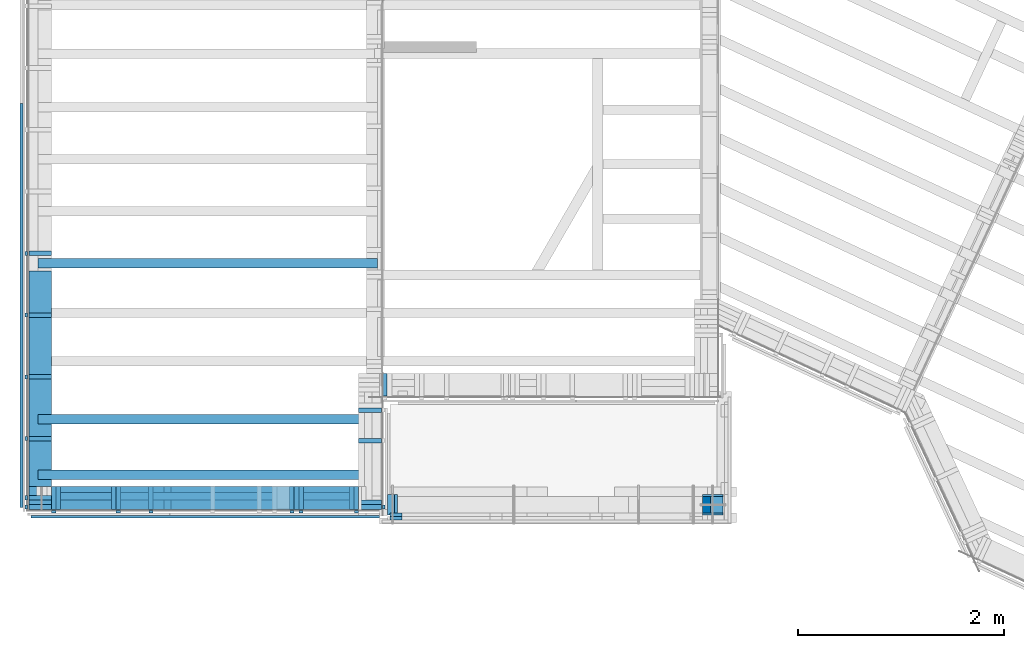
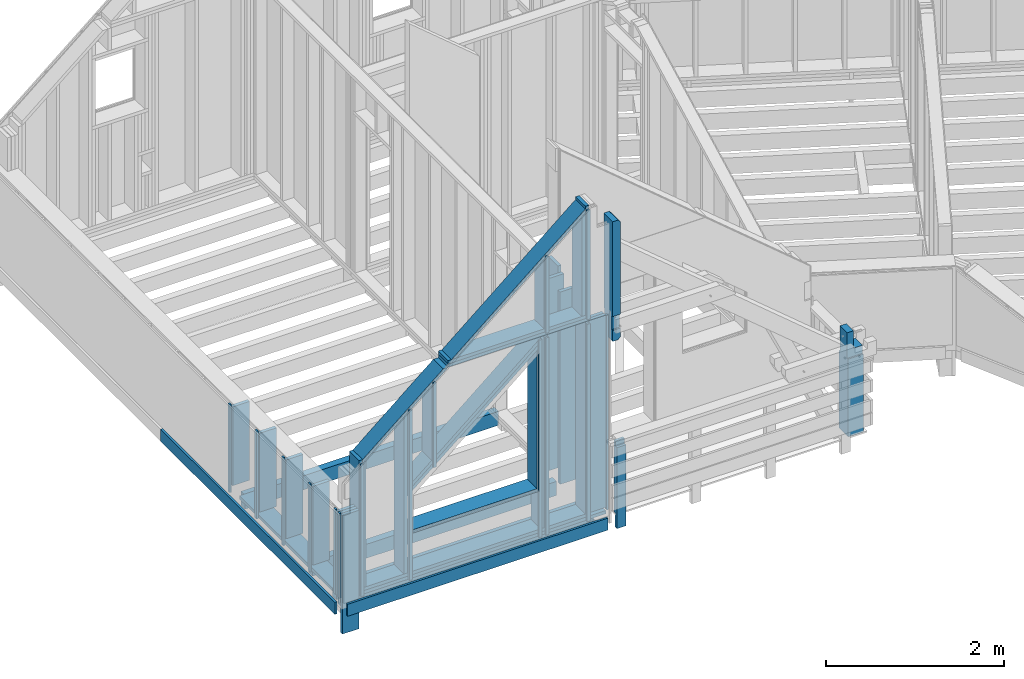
# One storey, part 3 of 24: 57 members, 1 beam, 1 column.
"""IFC2X3 building model written with IfcOpenShell, lengths in metres."""

import ifcopenshell
import ifcopenshell.guid

model = None  # the IFC model being written
_history = None  # IfcOwnerHistory: only IFC2X3 demands one
_inside = {}  # id of a spatial element -> (the spatial element, [elements in it])
_under = {}  # id of a project, library or spatial element -> (it, [spatial elements below it])
_declared = {}  # id of a project -> (the project, [libraries it declares])
_typed = {}  # id of a type object -> (the type object, [elements of that type])
_made_of = {}  # id of a material, layer set ... -> (it, [elements and type objects made of it])


def new_model(schema):
    """Start an empty IFC model of exactly this schema.

    Asked for "IFC4X3", IfcOpenShell would pick the latest addendum, in which some entities
    have other attributes; the version numbers below select the first issue.
    IFC2X3 requires an IfcOwnerHistory on every rooted entity: one is made here for all.
    """
    global model, _history
    if schema == "IFC4X3":
        model = ifcopenshell.file(schema_version=(4, 3, 0, 0))
    else:
        model = ifcopenshell.file(schema=schema)
    _inside.clear()
    _under.clear()
    _declared.clear()
    _typed.clear()
    _made_of.clear()
    _history = None
    if model.schema == "IFC2X3":
        org = make("IfcOrganization", Name="unknown")
        user = make(
            "IfcPersonAndOrganization",
            ThePerson=make("IfcPerson", FamilyName="unknown"),
            TheOrganization=org,
        )
        app = make(
            "IfcApplication",
            ApplicationDeveloper=org,
            Version="unknown",
            ApplicationFullName="unknown",
            ApplicationIdentifier="unknown",
        )
        _history = make(
            "IfcOwnerHistory",
            OwningUser=user,
            OwningApplication=app,
            ChangeAction="ADDED",
            CreationDate=0,
        )
    return model


def make(cls, **values):
    """One entity of the class cls with the attributes given. An attribute that is None is left unset."""
    return model.create_entity(
        cls, **{name: value for name, value in values.items() if value is not None}
    )


def rooted(cls, **values):
    """An entity with a GlobalId (a new one), such as an element, a storey or a relation."""
    return make(cls, GlobalId=ifcopenshell.guid.new(), OwnerHistory=_history, **values)


def si_unit(unit_type, name, prefix=None):
    """IfcSIUnit, for example si_unit("LENGTHUNIT", "METRE", prefix="MILLI")."""
    return make("IfcSIUnit", UnitType=unit_type, Prefix=prefix, Name=name)


def assignment(units):
    """IfcUnitAssignment: the units of a project."""
    return None if units is None else make("IfcUnitAssignment", Units=units)


def point(xyz):
    """IfcCartesianPoint."""
    return None if xyz is None else make("IfcCartesianPoint", Coordinates=xyz)


def direction(xyz):
    """IfcDirection."""
    return None if xyz is None else make("IfcDirection", DirectionRatios=xyz)


def frame(location, z_axis=None, x_axis=None):
    """IfcAxis2Placement3D, a coordinate frame: its origin and axes. An axis left out is left unset."""
    return make(
        "IfcAxis2Placement3D",
        Location=point(location),
        Axis=direction(z_axis),
        RefDirection=direction(x_axis),
    )


def origin_with_axes():
    """The frame at (0, 0, 0) with the z axis (0, 0, 1) and the x axis (1, 0, 0) written out."""
    return frame((0.0, 0.0, 0.0), z_axis=(0.0, 0.0, 1.0), x_axis=(1.0, 0.0, 0.0))


def place(relative_to, where):
    """IfcLocalPlacement: puts the frame where relative to a parent placement (None: the world)."""
    return make(
        "IfcLocalPlacement", PlacementRelTo=relative_to, RelativePlacement=where
    )


def context(
    kind, dimensions, precision=None, world=None, true_north=None, identifier=None
):
    """IfcGeometricRepresentationContext, for example the 3D "Model" context."""
    return make(
        "IfcGeometricRepresentationContext",
        ContextIdentifier=identifier,
        ContextType=kind,
        CoordinateSpaceDimension=dimensions,
        Precision=precision,
        WorldCoordinateSystem=world,
        TrueNorth=true_north,
    )


def subcontext(parent, identifier, kind, view, scale=None):
    """IfcGeometricRepresentationSubContext, for example "Body" below "Model"."""
    return make(
        "IfcGeometricRepresentationSubContext",
        ContextIdentifier=identifier,
        ContextType=kind,
        ParentContext=parent,
        TargetScale=scale,
        TargetView=view,
    )


def project(units=None, contexts=None):
    """IfcProject with its units and contexts."""
    return rooted(
        "IfcProject",
        Name="project",
        RepresentationContexts=contexts,
        UnitsInContext=assignment(units),
    )


def spatial(cls, under=None, at=None, **own):
    """A site, building, storey or space (cls), placed at a placement, below another one or the project."""
    s = rooted(cls, ObjectPlacement=at, **own)
    if under is not None:
        _under.setdefault(under.id(), (under, []))[1].append(s)
    return s


def faces_of(points, faces, orient=None, outer=None):
    """IfcFace entities. A face is a list of loops; a loop is a list of indices into points, from 0.

    orient and outer hold one flag for each loop. By default every Orientation is true, the
    first loop of a face is its IfcFaceOuterBound and the others are IfcFaceBound.
    """
    made = []
    for i, loops in enumerate(faces):
        bounds = []
        for j, loop in enumerate(loops):
            is_outer = j == 0 if outer is None else outer[i][j]
            bounds.append(
                make(
                    "IfcFaceOuterBound" if is_outer else "IfcFaceBound",
                    Bound=make("IfcPolyLoop", Polygon=[points[k] for k in loop]),
                    Orientation=True if orient is None else orient[i][j],
                )
            )
        made.append(make("IfcFace", Bounds=bounds))
    return made


def faceted_brep(points, faces, orient=None, outer=None, voids=None):
    """IfcFacetedBrep: a solid bounded by flat faces; with voids (closed shells), ...WithVoids."""
    shared = [point(p) for p in points]
    hull = make("IfcClosedShell", CfsFaces=faces_of(shared, faces, orient, outer))
    if voids is None:
        return make("IfcFacetedBrep", Outer=hull)
    return make(
        "IfcFacetedBrepWithVoids",
        Outer=hull,
        Voids=[
            make(cls, CfsFaces=faces_of(shared, fs, o, b)) for cls, fs, o, b in voids
        ],
    )


def shape(context_of_items, identifier, shape_type, items):
    """IfcShapeRepresentation: the items that make up one representation, for example the "Body"."""
    return make(
        "IfcShapeRepresentation",
        ContextOfItems=context_of_items,
        RepresentationIdentifier=identifier,
        RepresentationType=shape_type,
        Items=items,
    )


def material(Name=None, Category=None):
    """IfcMaterial."""
    return make("IfcMaterial", Name=Name, Category=Category)


def made_of(thing, what):
    """Note that an element or type object is made of a material, layer set ...; save() writes the relation."""
    if what is not None:
        _made_of.setdefault(what.id(), (what, []))[1].append(thing)
    return thing


def element(
    cls,
    number,
    at=None,
    inside=None,
    cuts=None,
    type_object=None,
    material=None,
    context=None,
    identifier="Body",
    shape_type=None,
    held_by="IfcProductDefinitionShape",
    body=None,
    shapes=None,
    **own,
):
    """One element of the class cls, such as IfcWall. Its Tag is "e" and its number.

    at: its placement. inside: the storey or other place that contains it. cuts: it is an
    opening in that element (IfcRelVoidsElement). A single representation is given by context,
    identifier, shape_type and body (its items); several are given by shapes. held_by: the class
    of the entity that holds the representations. save() writes the other relations.
    """
    e = rooted(cls, Tag="e%d" % number, ObjectPlacement=at, **own)
    if body is not None:
        shapes = [shape(context, identifier, shape_type, body)]
    if shapes is not None:
        e.Representation = make(held_by, Representations=shapes)
    if inside is not None:
        _inside.setdefault(inside.id(), (inside, []))[1].append(e)
    if cuts is not None:
        rooted(
            "IfcRelVoidsElement", RelatingBuildingElement=cuts, RelatedOpeningElement=e
        )
    if type_object is not None:
        _typed.setdefault(type_object.id(), (type_object, []))[1].append(e)
    return made_of(e, material)


def aggregate(whole, parts):
    """IfcRelAggregates: a whole, such as a stair, and the parts it consists of."""
    return rooted("IfcRelAggregates", RelatingObject=whole, RelatedObjects=parts)


def save(model, path):
    """Write the relations noted so far, then the file.

    IfcRelAggregates (storeys below a building ...), IfcRelContainedInSpatialStructure (elements
    in a storey), IfcRelDefinesByType, IfcRelAssociatesMaterial and IfcRelDeclares: one each for
    every whole, place, type object, material and project.
    """
    for whole, parts in _under.values():
        aggregate(whole, parts)
    for where, things in _inside.values():
        rooted(
            "IfcRelContainedInSpatialStructure",
            RelatedElements=things,
            RelatingStructure=where,
        )
    for kind, things in _typed.values():
        rooted("IfcRelDefinesByType", RelatedObjects=things, RelatingType=kind)
    for what, things in _made_of.values():
        rooted("IfcRelAssociatesMaterial", RelatedObjects=things, RelatingMaterial=what)
    for by, libraries in _declared.values():
        rooted("IfcRelDeclares", RelatingContext=by, RelatedDefinitions=libraries)
    model.write(path)


model = new_model("IFC2X3")

# Units and contexts
model_context = context("Model", 3, precision=1e-06, world=origin_with_axes(), true_north=direction((0.0, 1.0, 0.0)))
body_context = subcontext(model_context, "Body", "Model", "MODEL_VIEW")
ifc_project = project(units=[si_unit("LENGTHUNIT", "METRE"), si_unit("AREAUNIT", "SQUARE_METRE"), si_unit("VOLUMEUNIT", "CUBIC_METRE"), si_unit("PLANEANGLEUNIT", "RADIAN")], contexts=[model_context])

# Site, building, storey
site_placement = place(None, origin_with_axes())
site = spatial("IfcSite", under=ifc_project, at=site_placement, CompositionType="ELEMENT")
building_placement = place(site_placement, origin_with_axes())
building = spatial("IfcBuilding", under=site, at=building_placement, Name="Building 1", CompositionType="ELEMENT")
storey_placement = place(building_placement, origin_with_axes())
storey = spatial("IfcBuildingStorey", under=building, at=storey_placement, Name="Premier Etage", CompositionType="ELEMENT", Elevation=0.0)

# Column
ifc_material_1 = material(Name="NH II")
column_placement = place(storey_placement, frame((6.652, 0.056, 2.805), z_axis=(-1.0, 0.0, 0.0), x_axis=(0.0, 0.0, 1.0)))
element("IfcColumn", 1, at=column_placement, inside=storey, material=ifc_material_1, Name="Poteau", context=body_context, shape_type="Brep", body=[
    faceted_brep([(1.1778151, 0.08, 0.019), (1.4178151, 0.08, 0.019), (1.4178151, -0.08, 0.019), (1.1778151, -0.08, 0.019), (1.4178151, 0.08, 0.1), (1.4178151, -0.08, 0.1), (1.067, 0.1, 0.1), (1.067, 0.1, -0.1), (0.0, 0.1, -0.1), (0.0, 0.1, 0.1), (1.067, 0.08, 0.1), (1.1778151, 0.08, -0.1), (1.067, 0.08, -0.1), (1.067, -0.1, -0.1), (1.067, -0.1, 0.1), (0.0, -0.1, 0.1), (0.0, -0.1, -0.1), (1.067, -0.08, 0.1), (1.067, -0.08, -0.1), (1.1778151, -0.08, -0.1)], [[[0, 1, 2, 3]], [[1, 4, 5, 2]], [[6, 7, 8, 9]], [[10, 4, 1, 0, 11, 12]], [[13, 14, 15, 16]], [[4, 10, 6, 9, 15, 14, 17, 5]], [[18, 19, 3, 2, 5, 17]], [[13, 18, 17, 14]], [[11, 19, 18, 13, 16, 8, 7, 12]], [[11, 0, 3, 19]], [[8, 16, 15, 9]], [[6, 10, 12, 7]]]),
])

# Members
ifc_material_2 = material(Name="Epicéa C24")
member_1_placement = place(storey_placement, frame((3.326, 0.6795, 5.5354713), z_axis=(1.0, 0.0, 0.0), x_axis=(0.0, 0.0, -1.0)))
element("IfcMember", 2, at=member_1_placement, inside=storey, material=ifc_material_2, Name="Montant", context=body_context, shape_type="Brep", body=[
    faceted_brep([(2.6404713, -0.0225, -0.11), (2.6404713, 0.0225, -0.11), (2.6404713, 0.0225, 0.11), (2.6404713, -0.0225, 0.11), (0.0, -0.0225, 0.11), (0.0, -0.0225, -0.11), (0.0, 0.0225, -0.11), (0.0, 0.0225, 0.11)], [[[0, 1, 2, 3]], [[0, 3, 4, 5]], [[1, 0, 5, 6]], [[2, 1, 6, 7]], [[3, 2, 7, 4]], [[4, 7, 6, 5]]]),
])
member_2_placement = place(storey_placement, frame((2.6565, -0.013, 6.6359814), z_axis=(0.0, -1.0, 0.0), x_axis=(0.0, 0.0, -1.0)))
element("IfcMember", 3, at=member_2_placement, inside=storey, material=ifc_material_2, Name="latte 27/40", context=body_context, shape_type="Brep", body=[
    faceted_brep([(1.0505101, 0.02, -0.012), (1.0505101, 0.02, 0.012), (1.0505101, -0.02, 0.012), (1.0505101, -0.02, -0.012), (0.0, 0.02, 0.012), (0.0, 0.02, -0.012), (0.0, -0.02, -0.012), (0.0, -0.02, 0.012)], [[[0, 1, 2, 3]], [[4, 5, 6, 7]], [[3, 6, 5, 0]], [[2, 7, 6, 3]], [[1, 4, 7, 2]], [[0, 5, 4, 1]]]),
])
member_3_placement = place(storey_placement, frame((2.6565, 0.122, 6.6128998), z_axis=(0.0, -1.0, 0.0), x_axis=(0.0, 0.0, -1.0)))
element("IfcMember", 4, at=member_3_placement, inside=storey, material=ifc_material_2, Name="Montant", context=body_context, shape_type="Brep", body=[
    faceted_brep([(0.0, 0.0225, -0.11), (0.0377595, -0.0225, -0.11), (0.0377595, -0.0225, 0.11), (0.0, 0.0225, 0.11), (0.9874285, -0.0225, -0.11), (0.9874285, -0.0225, 0.11), (0.9874285, 0.0225, -0.11), (0.9874285, 0.0225, 0.11)], [[[0, 1, 2, 3]], [[2, 1, 4, 5]], [[1, 0, 6, 4]], [[0, 3, 7, 6]], [[3, 2, 5, 7]], [[4, 6, 7, 5]]]),
])
member_4_placement = place(storey_placement, frame((3.1485, 0.122, 7.0257368), z_axis=(0.0, -1.0, 0.0), x_axis=(0.0, 0.0, -1.0)))
element("IfcMember", 5, at=member_4_placement, inside=storey, material=ifc_material_2, Name="Montant", context=body_context, shape_type="Brep", body=[
    faceted_brep([(0.0377595, -0.0225, -0.11), (0.0377595, -0.0225, 0.11), (0.0, 0.0225, 0.11), (0.0, 0.0225, -0.11), (1.4002655, -0.0225, 0.11), (1.4002655, 0.0225, 0.11), (1.4002655, -0.0225, -0.11), (1.4002655, 0.0225, -0.11)], [[[0, 1, 2, 3]], [[2, 1, 4, 5]], [[1, 0, 6, 4]], [[3, 2, 5, 7]], [[0, 3, 7, 6]], [[6, 7, 5, 4]]]),
])
member_5_placement = place(storey_placement, frame((3.1854627, 0.122, 7.0672441), z_axis=(0.0, 1.0, 0.0), x_axis=(-0.7660444, 0.0, -0.6427876)))
element("IfcMember", 6, at=member_5_placement, inside=storey, material=ifc_material_2, Name="Montant", context=body_context, shape_type="Brep", body=[
    faceted_brep([(0.0, 0.0225, -0.11), (0.0377595, -0.0225, -0.11), (0.0377595, -0.0225, 0.11), (0.0, 0.0225, 0.11), (2.2161859, -0.0225, -0.11), (2.2161859, -0.0225, 0.11), (2.2698148, 0.0225, -0.11), (2.2698148, 0.0225, 0.11)], [[[0, 1, 2, 3]], [[2, 1, 4, 5]], [[1, 0, 6, 4]], [[3, 2, 5, 7]], [[0, 3, 7, 6]], [[6, 7, 5, 4]]]),
])
member_6_placement = place(storey_placement, frame((0.122, 2.326, 2.8275), z_axis=(1.0, 0.0, 0.0), x_axis=(0.0, -1.0, 0.0)))
element("IfcMember", 7, at=member_6_placement, inside=storey, material=ifc_material_2, Name="Lisse basse", context=body_context, shape_type="Brep", body=[
    faceted_brep([(0.0, -0.0225, 0.11), (0.0, 0.0225, 0.11), (0.0, 0.0225, -0.11), (0.0, -0.0225, -0.11), (2.094, 0.0225, 0.11), (2.094, 0.0225, -0.11), (2.094, -0.0225, 0.11), (2.094, -0.0225, -0.11)], [[[0, 1, 2, 3]], [[2, 1, 4, 5]], [[1, 0, 6, 4]], [[6, 7, 5, 4]], [[3, 2, 5, 7]], [[0, 3, 7, 6]]]),
])
member_7_placement = place(storey_placement, frame((3.326, 0.9758281, 5.5354713), z_axis=(-1.0, 0.0, 0.0), x_axis=(0.0, 0.0, -1.0)))
element("IfcMember", 8, at=member_7_placement, inside=storey, material=ifc_material_2, Name="Montant", context=body_context, shape_type="Brep", body=[
    faceted_brep([(2.6404713, -0.0225, -0.11), (2.6404713, 0.0225, -0.11), (2.6404713, 0.0225, 0.11), (2.6404713, -0.0225, 0.11), (0.0, -0.0225, 0.11), (0.0, -0.0225, -0.11), (0.0, 0.0225, -0.11), (0.0, 0.0225, 0.11)], [[[0, 1, 2, 3]], [[0, 3, 4, 5]], [[1, 0, 5, 6]], [[2, 1, 6, 7]], [[3, 2, 7, 4]], [[4, 7, 6, 5]]]),
])
member_8_placement = place(storey_placement, frame((-0.013, 0.0345, 4.0178151), z_axis=(-1.0, 0.0, 0.0), x_axis=(0.0, 0.0, -1.0)))
element("IfcMember", 9, at=member_8_placement, inside=storey, material=ifc_material_2, Name="latte 27/40", context=body_context, shape_type="Brep", body=[
    faceted_brep([(1.1678151, -0.02, -0.012), (1.1678151, -0.02, 0.012), (0.0, -0.02, 0.012), (0.0, -0.02, -0.012), (1.1678151, 0.02, -0.012), (0.0, 0.02, -0.012), (1.1678151, 0.02, 0.012), (0.0, 0.02, 0.012)], [[[0, 1, 2, 3]], [[4, 0, 3, 5]], [[6, 4, 5, 7]], [[2, 7, 5, 3]], [[1, 6, 7, 2]], [[4, 6, 1, 0]]]),
])
member_9_placement = place(storey_placement, frame((0.2625373, 0.122, 4.6146185), z_axis=(0.0, 1.0, 0.0), x_axis=(0.7660444, 0.0, 0.6427876)))
element("IfcMember", 10, at=member_9_placement, inside=storey, material=ifc_material_2, Name="Montant", context=body_context, shape_type="Brep", body=[
    faceted_brep([(0.0, 0.0225, -0.11), (0.0377595, -0.0225, -0.11), (0.0377595, -0.0225, 0.11), (0.0, 0.0225, 0.11), (1.4057782, -0.0225, -0.11), (1.4057782, -0.0225, 0.11), (1.4594071, 0.0225, -0.11), (1.4594071, 0.0225, 0.11)], [[[0, 1, 2, 3]], [[2, 1, 4, 5]], [[1, 0, 6, 4]], [[0, 3, 7, 6]], [[7, 5, 4, 6]], [[3, 2, 5, 7]]]),
])
member_10_placement = place(storey_placement, frame((3.1935, -0.013, 7.0865779), z_axis=(0.0, -1.0, 0.0), x_axis=(0.0, 0.0, -1.0)))
element("IfcMember", 11, at=member_10_placement, inside=storey, material=ifc_material_2, Name="latte 27/40", context=body_context, shape_type="Brep", body=[
    faceted_brep([(1.5011066, 0.02, -0.012), (1.5011066, 0.02, 0.012), (1.5011066, -0.02, 0.012), (1.5011066, -0.02, -0.012), (0.0, 0.02, 0.012), (0.0, 0.02, -0.012), (0.0, -0.02, -0.012), (0.0, -0.02, 0.012)], [[[0, 1, 2, 3]], [[4, 5, 6, 7]], [[3, 6, 5, 0]], [[2, 7, 6, 3]], [[1, 4, 7, 2]], [[0, 5, 4, 1]]]),
])
member_11_placement = place(storey_placement, frame((3.4705, 1.2228281, 5.5354713), z_axis=(0.0, 1.0, 0.0), x_axis=(0.0, 0.0, -1.0)))
element("IfcMember", 12, at=member_11_placement, inside=storey, material=ifc_material_2, Name="Montant", context=body_context, shape_type="Brep", body=[
    faceted_brep([(2.6404713, -0.0225, 0.11), (2.6404713, 0.0225, 0.11), (0.0, 0.0225, 0.11), (0.0, -0.0225, 0.11), (2.6404713, -0.0225, -0.11), (2.6404713, 0.0225, -0.11), (0.0, -0.0225, -0.11), (0.0, 0.0225, -0.11)], [[[0, 1, 2, 3]], [[4, 5, 1, 0]], [[4, 0, 3, 6]], [[5, 4, 6, 7]], [[1, 5, 7, 2]], [[3, 2, 7, 6]]]),
])
member_12_placement = place(storey_placement, frame((0.8365, 0.122, 5.0857384), z_axis=(0.0, -1.0, 0.0), x_axis=(0.0, 0.0, -1.0)))
element("IfcMember", 13, at=member_12_placement, inside=storey, material=ifc_material_2, Name="Montant", context=body_context, shape_type="Brep", body=[
    faceted_brep([(0.0377595, -0.0225, -0.11), (0.0377595, -0.0225, 0.11), (0.0, 0.0225, 0.11), (0.0, 0.0225, -0.11), (2.1907384, -0.0225, 0.11), (2.1907384, 0.0225, 0.11), (2.1907384, -0.0225, -0.11), (2.1907384, 0.0225, -0.11)], [[[0, 1, 2, 3]], [[2, 1, 4, 5]], [[1, 0, 6, 4]], [[6, 7, 5, 4]], [[0, 3, 7, 6]], [[3, 2, 5, 7]]]),
])
member_13_placement = place(storey_placement, frame((0.8815, -0.013, 5.1465795), z_axis=(0.0, -1.0, 0.0), x_axis=(0.0, 0.0, -1.0)))
element("IfcMember", 14, at=member_13_placement, inside=storey, material=ifc_material_2, Name="latte 27/40", context=body_context, shape_type="Brep", body=[
    faceted_brep([(2.3365795, 0.02, -0.012), (2.3365795, 0.02, 0.012), (2.3365795, -0.02, 0.012), (2.3365795, -0.02, -0.012), (0.0, 0.02, 0.012), (0.0, 0.02, -0.012), (0.0, -0.02, -0.012), (0.0, -0.02, 0.012)], [[[0, 1, 2, 3]], [[4, 5, 6, 7]], [[3, 6, 5, 0]], [[2, 7, 6, 3]], [[1, 4, 7, 2]], [[0, 5, 4, 1]]]),
])
member_14_placement = place(storey_placement, frame((2.6115, 0.122, 5.5354713), z_axis=(0.0, -1.0, 0.0), x_axis=(0.0, 0.0, -1.0)))
element("IfcMember", 15, at=member_14_placement, inside=storey, material=ifc_material_2, Name="Montant", context=body_context, shape_type="Brep", body=[
    faceted_brep([(2.6404713, -0.0225, -0.11), (2.6404713, 0.0225, -0.11), (2.6404713, 0.0225, 0.11), (2.6404713, -0.0225, 0.11), (0.0, -0.0225, 0.11), (0.0, -0.0225, -0.11), (0.0, 0.0225, -0.11), (0.0, 0.0225, 0.11)], [[[0, 1, 2, 3]], [[0, 3, 4, 5]], [[1, 0, 5, 6]], [[2, 1, 6, 7]], [[3, 2, 7, 4]], [[4, 7, 6, 5]]]),
])
member_15_placement = place(storey_placement, frame((0.2545, -0.013, 4.6204641), z_axis=(0.0, -1.0, 0.0), x_axis=(0.0, 0.0, -1.0)))
element("IfcMember", 16, at=member_15_placement, inside=storey, material=ifc_material_2, Name="latte 27/40", context=body_context, shape_type="Brep", body=[
    faceted_brep([(1.8104641, 0.02, -0.012), (1.8104641, 0.02, 0.012), (1.8104641, -0.02, 0.012), (1.8104641, -0.02, -0.012), (0.0, 0.02, 0.012), (0.0, 0.02, -0.012), (0.0, -0.02, -0.012), (0.0, -0.02, 0.012)], [[[0, 1, 2, 3]], [[4, 5, 6, 7]], [[3, 6, 5, 0]], [[2, 7, 6, 3]], [[1, 4, 7, 2]], [[0, 5, 4, 1]]]),
])
ifc_material_3 = material(Name="Sapin")
member_16_placement = place(storey_placement, frame((3.5795, -0.059, 2.635), z_axis=(0.0, -1.0, 0.0), x_axis=(0.0, 0.0, 1.0)))
element("IfcMember", 17, at=member_16_placement, inside=storey, material=ifc_material_3, Name="poteau de balcon", context=body_context, shape_type="Brep", body=[
    faceted_brep([(1.112, -0.0585, 0.0), (1.182, -0.0585, 0.0), (1.182, 0.0585, 0.0), (1.112, 0.0585, 0.0), (1.182, -0.0585, -0.035), (1.182, 0.0585, -0.035), (0.191, 0.0585, -0.035), (0.191, 0.0585, -0.015), (0.0, 0.0585, -0.015), (0.0, 0.0585, 0.035), (1.112, 0.0585, 0.035), (0.191, -0.0585, -0.035), (1.112, -0.0585, 0.035), (0.0, -0.0585, 0.035), (0.0, -0.0585, -0.015), (0.191, -0.0585, -0.015)], [[[0, 1, 2, 3]], [[2, 1, 4, 5]], [[3, 2, 5, 6, 7, 8, 9, 10]], [[4, 11, 6, 5]], [[1, 0, 12, 13, 14, 15, 11, 4]], [[13, 12, 10, 9]], [[10, 12, 0, 3]], [[9, 8, 14, 13]], [[6, 11, 15, 7]], [[7, 15, 14, 8]]]),
])
member_17_placement = place(storey_placement, frame((2.5665, -0.013, 5.5204713), z_axis=(0.0, -1.0, 0.0), x_axis=(0.0, 0.0, -1.0)))
element("IfcMember", 18, at=member_17_placement, inside=storey, material=ifc_material_2, Name="latte 27/40", context=body_context, shape_type="Brep", body=[
    faceted_brep([(2.7104713, 0.02, -0.012), (2.7104713, 0.02, 0.012), (2.7104713, -0.02, 0.012), (2.7104713, -0.02, -0.012), (0.0, 0.02, 0.012), (0.0, 0.02, -0.012), (0.0, -0.02, -0.012), (0.0, -0.02, 0.012)], [[[0, 1, 2, 3]], [[4, 5, 6, 7]], [[3, 6, 5, 0]], [[2, 7, 6, 3]], [[1, 4, 7, 2]], [[0, 5, 4, 1]]]),
])
member_18_placement = place(storey_placement, frame((2.6565, 0.122, 5.5354713), z_axis=(0.0, -1.0, 0.0), x_axis=(0.0, 0.0, -1.0)))
element("IfcMember", 19, at=member_18_placement, inside=storey, material=ifc_material_2, Name="Montant", context=body_context, shape_type="Brep", body=[
    faceted_brep([(2.6404713, -0.0225, -0.11), (2.6404713, 0.0225, -0.11), (2.6404713, 0.0225, 0.11), (2.6404713, -0.0225, 0.11), (0.0, -0.0225, 0.11), (0.0, -0.0225, -0.11), (0.0, 0.0225, -0.11), (0.0, 0.0225, 0.11)], [[[0, 1, 2, 3]], [[0, 3, 4, 5]], [[1, 0, 5, 6]], [[2, 1, 6, 7]], [[3, 2, 7, 4]], [[4, 7, 6, 5]]]),
])
member_19_placement = place(storey_placement, frame((-0.013, 1.898, 4.0178151), z_axis=(-1.0, 0.0, 0.0), x_axis=(0.0, 0.0, -1.0)))
element("IfcMember", 20, at=member_19_placement, inside=storey, material=ifc_material_2, Name="latte 27/40", context=body_context, shape_type="Brep", body=[
    faceted_brep([(1.2078151, -0.02, 0.012), (0.0, -0.02, 0.012), (0.0, -0.02, -0.012), (1.2078151, -0.02, -0.012), (1.2078151, 0.02, -0.012), (0.0, 0.02, -0.012), (0.0, 0.02, 0.012), (1.2078151, 0.02, 0.012)], [[[0, 1, 2, 3]], [[4, 3, 2, 5]], [[6, 7, 4, 5]], [[0, 7, 6, 1]], [[7, 0, 3, 4]], [[1, 6, 5, 2]]]),
])
member_20_placement = place(storey_placement, frame((0.8815, 0.122, 5.1234979), z_axis=(0.0, -1.0, 0.0), x_axis=(0.0, 0.0, -1.0)))
element("IfcMember", 21, at=member_20_placement, inside=storey, material=ifc_material_2, Name="Montant", context=body_context, shape_type="Brep", body=[
    faceted_brep([(1.0568942, -0.0225, -0.11), (1.0191347, 0.0225, -0.11), (1.0191347, 0.0225, 0.11), (1.0568942, -0.0225, 0.11), (0.0, 0.0225, -0.11), (0.0, 0.0225, 0.11), (0.0377595, -0.0225, -0.11), (0.0377595, -0.0225, 0.11)], [[[0, 1, 2, 3]], [[2, 1, 4, 5]], [[1, 0, 6, 4]], [[0, 3, 7, 6]], [[3, 2, 5, 7]], [[7, 5, 4, 6]]]),
])
member_21_placement = place(storey_placement, frame((0.012, 0.122, 2.8275), z_axis=(0.0, 1.0, 0.0), x_axis=(1.0, 0.0, 0.0)))
element("IfcMember", 22, at=member_21_placement, inside=storey, material=ifc_material_2, Name="Lisse basse", context=body_context, shape_type="Brep", body=[
    faceted_brep([(3.424, -0.0225, -0.11), (0.0, -0.0225, -0.11), (0.0, 0.0225, -0.11), (3.424, 0.0225, -0.11), (3.424, 0.0225, 0.11), (3.424, -0.0225, 0.11), (0.0, -0.0225, 0.11), (0.0, 0.0225, 0.11)], [[[0, 1, 2, 3]], [[4, 5, 0, 3]], [[6, 7, 2, 1]], [[1, 0, 5, 6]], [[7, 4, 3, 2]], [[6, 5, 4, 7]]]),
])
member_22_placement = place(storey_placement, frame((3.1935, 0.122, 7.1222396), z_axis=(0.0, -1.0, 0.0), x_axis=(0.0, 0.0, -1.0)))
element("IfcMember", 23, at=member_22_placement, inside=storey, material=ifc_material_2, Name="Montant", context=body_context, shape_type="Brep", body=[
    faceted_brep([(0.0, 0.0225, -0.11), (0.0, 0.0225, 0.11), (1.4967683, 0.0225, 0.11), (1.4967683, 0.0225, -0.11), (0.0, -0.0225, 0.11), (1.4967683, -0.0225, 0.11), (0.0, -0.0225, -0.11), (1.4967683, -0.0225, -0.11)], [[[0, 1, 2, 3]], [[1, 4, 5, 2]], [[4, 6, 7, 5]], [[6, 0, 3, 7]], [[0, 6, 4, 1]], [[7, 3, 2, 5]]]),
])
member_23_placement = place(storey_placement, frame((0.122, 0.0345, 3.9778151), z_axis=(-1.0, 0.0, 0.0), x_axis=(0.0, 0.0, -1.0)))
element("IfcMember", 24, at=member_23_placement, inside=storey, material=ifc_material_2, Name="Montant", context=body_context, shape_type="Brep", body=[
    faceted_brep([(1.6278151, 0.0225, 0.11), (0.0, 0.0225, 0.11), (0.0, -0.0225, 0.11), (1.6278151, -0.0225, 0.11), (0.0, 0.0225, -0.11), (0.0, -0.0225, -0.11), (1.6278151, 0.0225, -0.11), (1.6278151, -0.0225, -0.11)], [[[0, 1, 2, 3]], [[1, 4, 5, 2]], [[6, 4, 1, 0]], [[7, 5, 4, 6]], [[3, 2, 5, 7]], [[6, 0, 3, 7]]]),
])
member_24_placement = place(storey_placement, frame((0.122, 0.0795, 3.9778151), z_axis=(-1.0, 0.0, 0.0), x_axis=(0.0, 0.0, -1.0)))
element("IfcMember", 25, at=member_24_placement, inside=storey, material=ifc_material_2, Name="Montant", context=body_context, shape_type="Brep", body=[
    faceted_brep([(1.0828151, -0.0225, -0.11), (1.0828151, 0.0225, -0.11), (1.0828151, 0.0225, 0.11), (1.0828151, -0.0225, 0.11), (0.0, -0.0225, 0.11), (0.0, -0.0225, -0.11), (0.0, 0.0225, -0.11), (0.0, 0.0225, 0.11)], [[[0, 1, 2, 3]], [[0, 3, 4, 5]], [[1, 0, 5, 6]], [[2, 1, 6, 7]], [[3, 2, 7, 4]], [[4, 7, 6, 5]]]),
])
member_25_placement = place(storey_placement, frame((3.326, 0.0345, 5.5354713), z_axis=(1.0, 0.0, 0.0), x_axis=(0.0, 0.0, -1.0)))
element("IfcMember", 26, at=member_25_placement, inside=storey, material=ifc_material_2, Name="Montant", context=body_context, shape_type="Brep", body=[
    faceted_brep([(2.6404713, -0.0225, -0.11), (2.6404713, 0.0225, -0.11), (2.6404713, 0.0225, 0.11), (2.6404713, -0.0225, 0.11), (0.0, -0.0225, 0.11), (0.0, -0.0225, -0.11), (0.0, 0.0225, -0.11), (0.0, 0.0225, 0.11)], [[[0, 1, 2, 3]], [[0, 3, 4, 5]], [[1, 0, 5, 6]], [[2, 1, 6, 7]], [[3, 2, 7, 4]], [[4, 7, 6, 5]]]),
])
member_26_placement = place(storey_placement, frame((0.2545, 0.122, 4.6561258), z_axis=(0.0, -1.0, 0.0), x_axis=(0.0, 0.0, -1.0)))
element("IfcMember", 27, at=member_26_placement, inside=storey, material=ifc_material_2, Name="Montant", context=body_context, shape_type="Brep", body=[
    faceted_brep([(0.0, -0.0225, 0.11), (0.0, 0.0225, 0.11), (0.0, 0.0225, -0.11), (0.0, -0.0225, -0.11), (1.7611258, 0.0225, 0.11), (1.7611258, 0.0225, -0.11), (1.7611258, -0.0225, 0.11), (1.7611258, -0.0225, -0.11)], [[[0, 1, 2, 3]], [[2, 1, 4, 5]], [[1, 0, 6, 4]], [[0, 3, 7, 6]], [[3, 2, 5, 7]], [[7, 5, 4, 6]]]),
])
member_27_placement = place(storey_placement, frame((3.326, 0.0795, 5.5354713), z_axis=(1.0, 0.0, 0.0), x_axis=(0.0, 0.0, -1.0)))
element("IfcMember", 28, at=member_27_placement, inside=storey, material=ifc_material_2, Name="Montant", context=body_context, shape_type="Brep", body=[
    faceted_brep([(2.6404713, -0.0225, -0.11), (2.6404713, 0.0225, -0.11), (2.6404713, 0.0225, 0.11), (2.6404713, -0.0225, 0.11), (0.0, -0.0225, 0.11), (0.0, -0.0225, -0.11), (0.0, 0.0225, -0.11), (0.0, 0.0225, 0.11)], [[[0, 1, 2, 3]], [[0, 3, 4, 5]], [[1, 0, 5, 6]], [[2, 1, 6, 7]], [[3, 2, 7, 4]], [[4, 7, 6, 5]]]),
])
member_28_placement = place(storey_placement, frame((3.461, 0.0345, 5.5204713), z_axis=(1.0, 0.0, 0.0), x_axis=(0.0, 0.0, -1.0)))
element("IfcMember", 29, at=member_28_placement, inside=storey, material=ifc_material_2, Name="latte 27/40", context=body_context, shape_type="Brep", body=[
    faceted_brep([(2.6704713, 0.02, 0.012), (2.6704713, -0.02, 0.012), (2.6704713, -0.02, -0.012), (2.6704713, 0.02, -0.012), (0.0, -0.02, -0.012), (0.0, 0.02, -0.012), (0.0, -0.02, 0.012), (0.0, 0.02, 0.012)], [[[0, 1, 2, 3]], [[3, 2, 4, 5]], [[2, 1, 6, 4]], [[1, 0, 7, 6]], [[0, 3, 5, 7]], [[6, 7, 5, 4]]]),
])
member_29_placement = place(storey_placement, frame((-0.013, 0.698, 4.0178151), z_axis=(-1.0, 0.0, 0.0), x_axis=(0.0, 0.0, -1.0)))
element("IfcMember", 30, at=member_29_placement, inside=storey, material=ifc_material_2, Name="latte 27/40", context=body_context, shape_type="Brep", body=[
    faceted_brep([(1.2078151, -0.02, 0.012), (0.0, -0.02, 0.012), (0.0, -0.02, -0.012), (1.2078151, -0.02, -0.012), (1.2078151, 0.02, -0.012), (0.0, 0.02, -0.012), (0.0, 0.02, 0.012), (1.2078151, 0.02, 0.012)], [[[0, 1, 2, 3]], [[4, 3, 2, 5]], [[6, 7, 4, 5]], [[0, 7, 6, 1]], [[7, 0, 3, 4]], [[1, 6, 5, 2]]]),
])
member_30_placement = place(storey_placement, frame((3.1935, 0.122, 5.5354713), z_axis=(0.0, -1.0, 0.0), x_axis=(0.0, 0.0, -1.0)))
element("IfcMember", 31, at=member_30_placement, inside=storey, material=ifc_material_2, Name="Montant", context=body_context, shape_type="Brep", body=[
    faceted_brep([(2.6404713, -0.0225, -0.11), (2.6404713, 0.0225, -0.11), (2.6404713, 0.0225, 0.11), (2.6404713, -0.0225, 0.11), (0.0, -0.0225, 0.11), (0.0, -0.0225, -0.11), (0.0, 0.0225, -0.11), (0.0, 0.0225, 0.11)], [[[0, 1, 2, 3]], [[0, 3, 4, 5]], [[1, 0, 5, 6]], [[2, 1, 6, 7]], [[3, 2, 7, 4]], [[4, 7, 6, 5]]]),
])
member_31_placement = place(storey_placement, frame((3.1935, -0.013, 5.5204713), z_axis=(0.0, -1.0, 0.0), x_axis=(0.0, 0.0, -1.0)))
element("IfcMember", 32, at=member_31_placement, inside=storey, material=ifc_material_2, Name="latte 27/40", context=body_context, shape_type="Brep", body=[
    faceted_brep([(2.7104713, 0.02, -0.012), (2.7104713, 0.02, 0.012), (2.7104713, -0.02, 0.012), (2.7104713, -0.02, -0.012), (0.0, 0.02, 0.012), (0.0, 0.02, -0.012), (0.0, -0.02, -0.012), (0.0, -0.02, 0.012)], [[[0, 1, 2, 3]], [[4, 5, 6, 7]], [[3, 6, 5, 0]], [[2, 7, 6, 3]], [[1, 4, 7, 2]], [[0, 5, 4, 1]]]),
])
member_32_placement = place(storey_placement, frame((0.232, 0.122, 2.8725), z_axis=(0.0, 1.0, 0.0), x_axis=(1.0, 0.0, 0.0)))
element("IfcMember", 33, at=member_32_placement, inside=storey, material=ifc_material_2, Name="Montant", context=body_context, shape_type="Brep", body=[
    faceted_brep([(2.984, 0.0225, -0.11), (0.0, 0.0225, -0.11), (0.0, 0.0225, 0.11), (2.984, 0.0225, 0.11), (2.984, -0.0225, 0.11), (2.984, -0.0225, -0.11), (0.0, -0.0225, 0.11), (0.0, -0.0225, -0.11)], [[[0, 1, 2, 3]], [[3, 4, 5, 0]], [[6, 2, 1, 7]], [[5, 7, 1, 0]], [[6, 7, 5, 4]], [[2, 6, 4, 3]]]),
])
member_33_placement = place(storey_placement, frame((0.104, 2.4032176, 2.709), z_axis=(0.0, 0.0, -1.0), x_axis=(1.0, 0.0, 0.0)))
element("IfcMember", 34, at=member_33_placement, inside=storey, material=ifc_material_1, Name="Solive", context=body_context, shape_type="Brep", body=[
    faceted_brep([(3.294, -0.046, 0.096), (3.294, -0.046, -0.096), (3.294, 0.046, -0.096), (3.294, 0.046, 0.096), (0.0, -0.046, -0.096), (0.0, -0.046, 0.096), (0.0, 0.046, 0.096), (0.0, 0.046, -0.096)], [[[0, 1, 2, 3]], [[4, 5, 6, 7]], [[3, 6, 5, 0]], [[2, 7, 6, 3]], [[1, 4, 7, 2]], [[0, 5, 4, 1]]]),
])
member_34_placement = place(storey_placement, frame((0.104, 0.8864141, 2.709), z_axis=(0.0, 0.0, -1.0), x_axis=(1.0, 0.0, 0.0)))
element("IfcMember", 35, at=member_34_placement, inside=storey, material=ifc_material_1, Name="Solive", context=body_context, shape_type="Brep", body=[
    faceted_brep([(3.17, -0.046, 0.096), (3.17, -0.046, -0.096), (3.17, 0.046, -0.096), (3.17, 0.046, 0.096), (0.0, -0.046, -0.096), (0.0, -0.046, 0.096), (0.0, 0.046, 0.096), (0.0, 0.046, -0.096)], [[[0, 1, 2, 3]], [[4, 5, 6, 7]], [[3, 6, 5, 0]], [[2, 7, 6, 3]], [[1, 4, 7, 2]], [[0, 5, 4, 1]]]),
])
member_35_placement = place(storey_placement, frame((1.198, -0.013, 5.4121546), z_axis=(0.0, -1.0, 0.0), x_axis=(0.0, 0.0, -1.0)))
element("IfcMember", 36, at=member_35_placement, inside=storey, material=ifc_material_2, Name="latte 27/40", context=body_context, shape_type="Brep", body=[
    faceted_brep([(1.1618007, 0.02, -0.012), (1.1618007, 0.02, 0.012), (1.1618007, -0.02, 0.012), (1.1618007, -0.02, -0.012), (0.0, 0.02, 0.012), (0.0, 0.02, -0.012), (0.0, -0.02, -0.012), (0.0, -0.02, 0.012)], [[[0, 1, 2, 3]], [[4, 5, 6, 7]], [[3, 6, 5, 0]], [[2, 7, 6, 3]], [[1, 4, 7, 2]], [[0, 5, 4, 1]]]),
])
member_36_placement = place(storey_placement, frame((1.387221, 0.122, 5.6029713), z_axis=(0.0, 1.0, 0.0), x_axis=(1.0, 0.0, 0.0)))
element("IfcMember", 37, at=member_36_placement, inside=storey, material=ifc_material_2, Name="Montant", context=body_context, shape_type="Brep", body=[
    faceted_brep([(0.0, 0.0225, -0.11), (0.0, -0.0225, -0.11), (0.0, -0.0225, 0.11), (0.0, 0.0225, 0.11), (1.828779, -0.0225, -0.11), (1.828779, -0.0225, 0.11), (1.828779, 0.0225, -0.11), (1.828779, 0.0225, 0.11)], [[[0, 1, 2, 3]], [[2, 1, 4, 5]], [[1, 0, 6, 4]], [[0, 3, 7, 6]], [[3, 2, 5, 7]], [[5, 4, 6, 7]]]),
])
member_37_placement = place(storey_placement, frame((2.6034627, 0.122, 5.5010101), z_axis=(0.0, -1.0, 0.0), x_axis=(-0.7660444, 0.0, -0.6427876)))
element("IfcMember", 38, at=member_37_placement, inside=storey, material=ifc_material_2, Name="Montant", context=body_context, shape_type="Brep", body=[
    faceted_brep([(0.0, -0.0225, 0.11), (0.0, -0.0225, -0.11), (2.2583546, -0.0225, -0.11), (2.2583546, -0.0225, 0.11), (0.0377595, 0.0225, 0.11), (2.2961141, 0.0225, 0.11), (0.0377595, 0.0225, -0.11), (2.2961141, 0.0225, -0.11)], [[[0, 1, 2, 3]], [[4, 0, 3, 5]], [[6, 4, 5, 7]], [[1, 6, 7, 2]], [[0, 4, 6, 1]], [[2, 7, 5, 3]]]),
])
member_38_placement = place(storey_placement, frame((1.387221, 0.122, 5.5579713), z_axis=(0.0, 1.0, 0.0), x_axis=(1.0, 0.0, 0.0)))
element("IfcMember", 39, at=member_38_placement, inside=storey, material=ifc_material_2, Name="Montant", context=body_context, shape_type="Brep", body=[
    faceted_brep([(0.0, 0.0225, -0.11), (0.0, -0.0225, -0.11), (0.0, -0.0225, 0.11), (0.0, 0.0225, 0.11), (1.828779, -0.0225, -0.11), (1.828779, -0.0225, 0.11), (1.828779, 0.0225, -0.11), (1.828779, 0.0225, 0.11)], [[[0, 1, 2, 3]], [[2, 1, 4, 5]], [[1, 0, 6, 4]], [[0, 3, 7, 6]], [[3, 2, 5, 7]], [[5, 4, 6, 7]]]),
])
member_39_placement = place(storey_placement, frame((2.6565, -0.013, 5.5204713), z_axis=(0.0, -1.0, 0.0), x_axis=(0.0, 0.0, -1.0)))
element("IfcMember", 40, at=member_39_placement, inside=storey, material=ifc_material_2, Name="latte 27/40", context=body_context, shape_type="Brep", body=[
    faceted_brep([(2.7104713, 0.02, -0.012), (2.7104713, 0.02, 0.012), (2.7104713, -0.02, 0.012), (2.7104713, -0.02, -0.012), (0.0, 0.02, 0.012), (0.0, 0.02, -0.012), (0.0, -0.02, -0.012), (0.0, -0.02, 0.012)], [[[0, 1, 2, 3]], [[4, 5, 6, 7]], [[3, 6, 5, 0]], [[2, 7, 6, 3]], [[1, 4, 7, 2]], [[0, 5, 4, 1]]]),
])
member_40_placement = place(storey_placement, frame((1.198, 0.122, 5.389073), z_axis=(0.0, -1.0, 0.0), x_axis=(0.0, 0.0, -1.0)))
element("IfcMember", 41, at=member_40_placement, inside=storey, material=ifc_material_2, Name="Montant", context=body_context, shape_type="Brep", body=[
    faceted_brep([(1.0568942, -0.0225, -0.11), (1.0191347, 0.0225, -0.11), (1.0191347, 0.0225, 0.11), (1.0568942, -0.0225, 0.11), (0.0, 0.0225, -0.11), (0.0, 0.0225, 0.11), (0.0377595, -0.0225, -0.11), (0.0377595, -0.0225, 0.11)], [[[0, 1, 2, 3]], [[2, 1, 4, 5]], [[1, 0, 6, 4]], [[0, 3, 7, 6]], [[3, 2, 5, 7]], [[7, 5, 4, 6]]]),
])
for number, where, z_axis, x_axis, name in (
    (42, (0.122, 1.298, 3.9778151), (-1.0, 0.0, 0.0), (0.0, 0.0, -1.0), "Montant"),
    (43, (0.122, 0.698, 3.9778151), (-1.0, 0.0, 0.0), (0.0, 0.0, -1.0), "Montant"),
    (44, (0.122, 0.1245, 3.9778151), (-1.0, 0.0, 0.0), (0.0, 0.0, -1.0), "Montant"),
    (45, (0.122, 2.498, 3.9778151), (-1.0, 0.0, 0.0), (0.0, 0.0, -1.0), "Montant"),
    (46, (0.122, 1.898, 3.9778151), (-1.0, 0.0, 0.0), (0.0, 0.0, -1.0), "Montant"),
):
    element("IfcMember", number, at=place(storey_placement, frame(where, z_axis=z_axis, x_axis=x_axis)), inside=storey, material=ifc_material_2, Name=name, context=body_context, shape_type="Brep", body=[
        faceted_brep([(1.0828151, -0.0225, -0.11), (1.0828151, 0.0225, -0.11), (1.0828151, 0.0225, 0.11), (1.0828151, -0.0225, 0.11), (0.0, -0.0225, 0.11), (0.0, -0.0225, -0.11), (0.0, 0.0225, -0.11), (0.0, 0.0225, 0.11)], [[[0, 1, 2, 3]], [[0, 3, 4, 5]], [[1, 0, 5, 6]], [[2, 1, 6, 7]], [[3, 2, 7, 4]], [[4, 7, 6, 5]]]),
    ])
member_41_placement = place(storey_placement, frame((-0.013, 1.298, 4.0178151), z_axis=(-1.0, 0.0, 0.0), x_axis=(0.0, 0.0, -1.0)))
element("IfcMember", 47, at=member_41_placement, inside=storey, material=ifc_material_2, Name="latte 27/40", context=body_context, shape_type="Brep", body=[
    faceted_brep([(1.2078151, -0.02, 0.012), (0.0, -0.02, 0.012), (0.0, -0.02, -0.012), (1.2078151, -0.02, -0.012), (1.2078151, 0.02, -0.012), (0.0, 0.02, -0.012), (0.0, 0.02, 0.012), (1.2078151, 0.02, 0.012)], [[[0, 1, 2, 3]], [[4, 3, 2, 5]], [[6, 7, 4, 5]], [[0, 7, 6, 1]], [[7, 0, 3, 4]], [[1, 6, 5, 2]]]),
])
member_42_placement = place(storey_placement, frame((-0.013, 0.1245, 4.0178151), z_axis=(-1.0, 0.0, 0.0), x_axis=(0.0, 0.0, -1.0)))
element("IfcMember", 48, at=member_42_placement, inside=storey, material=ifc_material_2, Name="latte 27/40", context=body_context, shape_type="Brep", body=[
    faceted_brep([(1.1678151, -0.02, -0.012), (1.1678151, -0.02, 0.012), (0.0, -0.02, 0.012), (0.0, -0.02, -0.012), (1.1678151, 0.02, -0.012), (0.0, 0.02, -0.012), (1.1678151, 0.02, 0.012), (0.0, 0.02, 0.012)], [[[0, 1, 2, 3]], [[4, 0, 3, 5]], [[6, 4, 5, 7]], [[2, 7, 5, 3]], [[1, 6, 7, 2]], [[4, 6, 1, 0]]]),
])
member_43_placement = place(storey_placement, frame((-0.013, 2.498, 4.0178151), z_axis=(-1.0, 0.0, 0.0), x_axis=(0.0, 0.0, -1.0)))
element("IfcMember", 49, at=member_43_placement, inside=storey, material=ifc_material_2, Name="latte 27/40", context=body_context, shape_type="Brep", body=[
    faceted_brep([(1.2078151, -0.02, 0.012), (0.0, -0.02, 0.012), (0.0, -0.02, -0.012), (1.2078151, -0.02, -0.012), (1.2078151, 0.02, -0.012), (0.0, 0.02, -0.012), (0.0, 0.02, 0.012), (1.2078151, 0.02, 0.012)], [[[0, 1, 2, 3]], [[4, 3, 2, 5]], [[6, 7, 4, 5]], [[0, 7, 6, 1]], [[7, 0, 3, 4]], [[1, 6, 5, 2]]]),
])
member_44_placement = place(storey_placement, frame((2.6034627, 0.122, 5.4422668), z_axis=(0.0, -1.0, 0.0), x_axis=(-0.7660444, 0.0, -0.6427876)))
element("IfcMember", 50, at=member_44_placement, inside=storey, material=ifc_material_2, Name="Montant", context=body_context, shape_type="Brep", body=[
    faceted_brep([(0.0, -0.0225, 0.11), (0.0, -0.0225, -0.11), (2.2583546, -0.0225, -0.11), (2.2583546, -0.0225, 0.11), (0.0377595, 0.0225, 0.11), (2.2961141, 0.0225, 0.11), (0.0377595, 0.0225, -0.11), (2.2961141, 0.0225, -0.11)], [[[0, 1, 2, 3]], [[4, 0, 3, 5]], [[6, 4, 5, 7]], [[1, 6, 7, 2]], [[0, 4, 6, 1]], [[2, 7, 5, 3]]]),
])

# Beam
beam_placement = place(storey_placement, frame((3.544, 0.056, 5.1864058), z_axis=(0.0, 1.0, 0.0), x_axis=(0.0, 0.0, 1.0)))
element("IfcBeam", 51, at=beam_placement, inside=storey, material=ifc_material_1, Name="Poteau", context=body_context, shape_type="Brep", body=[
    faceted_brep([(0.03, 0.05, 0.1), (0.03, 0.05, -0.1), (0.0, 0.02, -0.1), (0.0, 0.02, 0.1), (0.15, 0.05, -0.1), (0.15, -0.05, -0.1), (0.0, -0.05, -0.1), (0.15, 0.05, 0.1), (0.15, 0.05, 0.08), (0.342, 0.05, 0.08), (0.342, 0.05, 0.1), (1.6140656, 0.05, 0.1), (1.6140656, 0.05, -0.1), (0.342, 0.05, -0.1), (0.342, 0.05, -0.08), (0.15, 0.05, -0.08), (1.6440656, 0.02, 0.1), (1.6440656, 0.02, -0.1), (0.342, -0.05, 0.1), (1.6440656, -0.05, 0.1), (0.15, -0.05, 0.08), (0.342, -0.05, 0.08), (0.15, -0.05, 0.1), (0.342, -0.05, -0.08), (0.15, -0.05, -0.08), (0.342, -0.05, -0.1), (1.6440656, -0.05, -0.1), (0.0, -0.05, 0.1)], [[[0, 1, 2, 3]], [[2, 1, 4, 5, 6]], [[1, 0, 7, 8, 9, 10, 11, 12, 13, 14, 15, 4]], [[12, 11, 16, 17]], [[16, 11, 10, 18, 19]], [[9, 8, 20, 21]], [[10, 9, 21, 18]], [[8, 7, 22, 20]], [[15, 14, 23, 24]], [[4, 15, 24, 5]], [[14, 13, 25, 23]], [[17, 16, 19, 26]], [[3, 2, 6, 27]], [[12, 17, 26, 25, 13]], [[20, 22, 27, 6, 5, 24, 23, 25, 26, 19, 18, 21]], [[0, 3, 27, 22, 7]]]),
])

# Members
member_45_placement = place(storey_placement, frame((2.589, 0.122, 3.4405), z_axis=(0.0, -1.0, 0.0), x_axis=(-1.0, 0.0, 0.0)))
element("IfcMember", 52, at=member_45_placement, inside=storey, material=ifc_material_2, Name="Montant", context=body_context, shape_type="Brep", body=[
    faceted_brep([(0.0, 0.0225, -0.11), (0.0, -0.0225, -0.11), (0.0, -0.0225, 0.11), (0.0, 0.0225, 0.11), (1.73, -0.0225, -0.11), (1.73, 0.0225, -0.11), (1.73, 0.0225, 0.11), (1.73, -0.0225, 0.11)], [[[0, 1, 2, 3]], [[4, 5, 6, 7]], [[4, 7, 2, 1]], [[5, 4, 1, 0]], [[6, 5, 0, 3]], [[7, 6, 3, 2]]]),
])
member_46_placement = place(storey_placement, frame((3.344, 0.139, 2.709), z_axis=(0.0, 0.0, -1.0), x_axis=(-1.0, 0.0, 0.0)))
element("IfcMember", 53, at=member_46_placement, inside=storey, material=ifc_material_1, Name="Ceinture", context=body_context, shape_type="Brep", body=[
    faceted_brep([(0.0, 0.035, 0.0), (0.07, 0.035, 0.0), (0.07, -0.035, 0.0), (0.0, -0.035, 0.0), (0.07, 0.035, -0.096), (0.07, -0.035, -0.096), (0.0, 0.035, 0.096), (3.24, 0.035, 0.096), (3.24, 0.035, -0.096), (0.0, -0.035, 0.096), (3.24, -0.035, 0.096), (3.24, -0.035, -0.096)], [[[0, 1, 2, 3]], [[1, 4, 5, 2]], [[4, 1, 0, 6, 7, 8]], [[0, 3, 9, 6]], [[10, 11, 8, 7]], [[7, 6, 9, 10]], [[5, 4, 8, 11]], [[2, 5, 11, 10, 9, 3]]]),
])
member_47_placement = place(storey_placement, frame((0.104, 0.347, 2.709), z_axis=(0.0, 0.0, -1.0), x_axis=(1.0, 0.0, 0.0)))
element("IfcMember", 54, at=member_47_placement, inside=storey, material=ifc_material_1, Name="Solive", context=body_context, shape_type="Brep", body=[
    faceted_brep([(3.17, -0.046, 0.096), (3.17, -0.046, -0.096), (3.17, 0.046, -0.096), (3.17, 0.046, 0.096), (0.0, -0.046, -0.096), (0.0, -0.046, 0.096), (0.0, 0.046, 0.096), (0.0, 0.046, -0.096)], [[[0, 1, 2, 3]], [[4, 5, 6, 7]], [[3, 6, 5, 0]], [[2, 7, 6, 3]], [[1, 4, 7, 2]], [[0, 5, 4, 1]]]),
])
member_48_placement = place(storey_placement, frame((3.216, 0.058, 2.709), z_axis=(0.0, 0.0, -1.0), x_axis=(-1.0, 0.0, 0.0)))
element("IfcMember", 55, at=member_48_placement, inside=storey, material=ifc_material_1, Name="Ceinture", context=body_context, shape_type="Brep", body=[
    faceted_brep([(3.112, 0.046, 0.0), (3.112, 0.046, 0.096), (3.112, -0.046, 0.096), (3.112, -0.046, 0.0), (3.204, -0.046, 0.0), (3.204, 0.046, 0.0), (0.0, 0.046, 0.096), (0.0, -0.046, 0.096), (3.204, -0.046, -0.096), (3.204, 0.046, -0.096), (0.0, -0.046, -0.096), (0.0, 0.046, -0.096)], [[[0, 1, 2, 3]], [[0, 3, 4, 5]], [[2, 1, 6, 7]], [[5, 4, 8, 9]], [[10, 7, 6, 11]], [[1, 0, 5, 9, 11, 6]], [[8, 10, 11, 9]], [[3, 2, 7, 10, 8, 4]]]),
])
member_49_placement = place(storey_placement, frame((2.5665, 0.122, 5.4007595), z_axis=(0.0, -1.0, 0.0), x_axis=(0.0, 0.0, -1.0)))
element("IfcMember", 56, at=member_49_placement, inside=storey, material=ifc_material_2, Name="Montant", context=body_context, shape_type="Brep", body=[
    faceted_brep([(0.0377595, -0.0225, -0.11), (0.0377595, -0.0225, 0.11), (0.0, 0.0225, 0.11), (0.0, 0.0225, -0.11), (1.9377595, -0.0225, 0.11), (1.9377595, 0.0225, 0.11), (1.9377595, -0.0225, -0.11), (1.9377595, 0.0225, -0.11)], [[[0, 1, 2, 3]], [[2, 1, 4, 5]], [[1, 0, 6, 4]], [[6, 7, 5, 4]], [[0, 3, 7, 6]], [[3, 2, 5, 7]]]),
])
member_50_placement = place(storey_placement, frame((0.032, -0.0595, 2.7225), z_axis=(0.0, 0.0, -1.0), x_axis=(1.0, 0.0, 0.0)))
element("IfcMember", 57, at=member_50_placement, inside=storey, material=ifc_material_1, Name="contre poutre", context=body_context, shape_type="Brep", body=[
    faceted_brep([(3.384, 0.0135, -0.0825), (3.384, 0.0135, 0.0825), (3.384, -0.0135, 0.0825), (3.384, -0.0135, -0.0825), (0.0, 0.0135, 0.0825), (0.0, 0.0135, -0.0825), (0.0, -0.0135, -0.0825), (0.0, -0.0135, 0.0825)], [[[0, 1, 2, 3]], [[4, 5, 6, 7]], [[3, 6, 5, 0]], [[2, 7, 6, 3]], [[1, 4, 7, 2]], [[0, 5, 4, 1]]]),
])
member_51_placement = place(storey_placement, frame((-0.0595, 0.032, 2.7225), z_axis=(0.0, 0.0, -1.0), x_axis=(0.0, 1.0, 0.0)))
element("IfcMember", 58, at=member_51_placement, inside=storey, material=ifc_material_1, Name="contre poutre", context=body_context, shape_type="Brep", body=[
    faceted_brep([(0.0, 0.0135, -0.0825), (0.0, -0.0135, -0.0825), (0.0, -0.0135, 0.0825), (0.0, 0.0135, 0.0825), (3.922, -0.0135, -0.0825), (3.922, -0.0135, 0.0825), (3.922, 0.0135, -0.0825), (3.922, 0.0135, 0.0825)], [[[0, 1, 2, 3]], [[2, 1, 4, 5]], [[1, 0, 6, 4]], [[6, 7, 5, 4]], [[3, 2, 5, 7]], [[0, 3, 7, 6]]]),
])
member_52_placement = place(storey_placement, frame((0.2995, 0.122, 4.635142), z_axis=(0.0, -1.0, 0.0), x_axis=(0.0, 0.0, -1.0)))
element("IfcMember", 59, at=member_52_placement, inside=storey, material=ifc_material_2, Name="Montant", context=body_context, shape_type="Brep", body=[
    faceted_brep([(0.0377595, -0.0225, 0.11), (0.0, 0.0225, 0.11), (0.0, 0.0225, -0.11), (0.0377595, -0.0225, -0.11), (1.740142, 0.0225, 0.11), (1.740142, 0.0225, -0.11), (1.740142, -0.0225, 0.11), (1.740142, -0.0225, -0.11)], [[[0, 1, 2, 3]], [[2, 1, 4, 5]], [[1, 0, 6, 4]], [[0, 3, 7, 6]], [[7, 5, 4, 6]], [[3, 2, 5, 7]]]),
])

save(model, "model.ifc")
